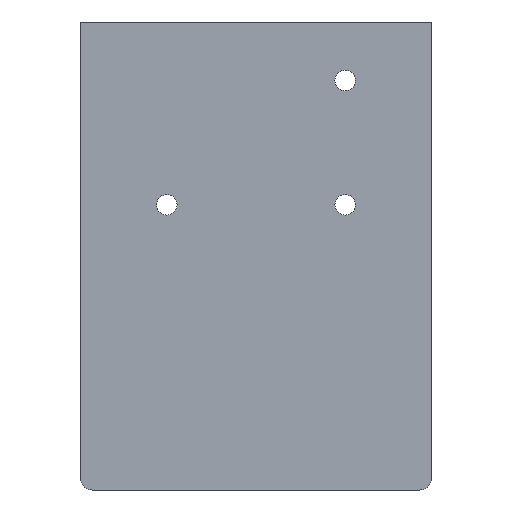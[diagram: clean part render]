
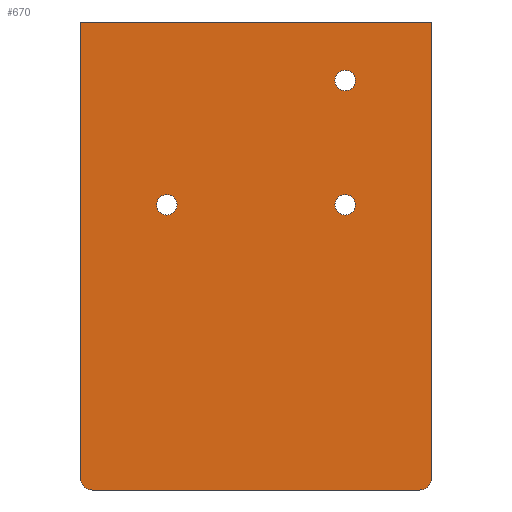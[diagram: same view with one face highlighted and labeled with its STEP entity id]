
A CAD part, front view. The second image highlights one B-rep face of the part: STEP entity #670.
In plain terms, the highlighted planar face has unit normal (0, -1, 0).
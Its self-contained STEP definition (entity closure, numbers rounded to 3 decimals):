
#26 = CARTESIAN_POINT ( 'NONE',  ( 60., 10., 27. ) ) ;
#42 = VERTEX_POINT ( 'NONE', #1947 ) ;
#48 = VERTEX_POINT ( 'NONE', #660 ) ;
#106 = ORIENTED_EDGE ( 'NONE', *, *, #1349, .F. ) ;
#175 = CARTESIAN_POINT ( 'NONE',  ( 2., 10., 25. ) ) ;
#187 = EDGE_CURVE ( 'NONE', #42, #1304, #479, .T. ) ;
#204 = DIRECTION ( 'NONE',  ( 0., 0., -1. ) ) ;
#212 = VERTEX_POINT ( 'NONE', #2340 ) ;
#216 = EDGE_CURVE ( 'NONE', #1020, #1396, #666, .T. ) ;
#226 = EDGE_LOOP ( 'NONE', ( #238, #1975 ) ) ;
#238 = ORIENTED_EDGE ( 'NONE', *, *, #2758, .F. ) ;
#256 = LINE ( 'NONE', #2701, #864 ) ;
#347 = VERTEX_POINT ( 'NONE', #616 ) ;
#351 = CIRCLE ( 'NONE', #2452, 1.75 ) ;
#403 = AXIS2_PLACEMENT_3D ( 'NONE', #1565, #902, #1992 ) ;
#405 = DIRECTION ( 'NONE',  ( 0., -1., 0. ) ) ;
#432 = ORIENTED_EDGE ( 'NONE', *, *, #1198, .F. ) ;
#479 = CIRCLE ( 'NONE', #1664, 1.75 ) ;
#562 = DIRECTION ( 'NONE',  ( 0., -1., 0. ) ) ;
#565 = DIRECTION ( 'NONE',  ( 0., 0., -1. ) ) ;
#578 = CARTESIAN_POINT ( 'NONE',  ( 0., 10., -25. ) ) ;
#596 = DIRECTION ( 'NONE',  ( 0., 0., 1. ) ) ;
#616 = CARTESIAN_POINT ( 'NONE',  ( 14.75, 10., 75.5 ) ) ;
#645 = DIRECTION ( 'NONE',  ( 0., 0., -1. ) ) ;
#660 = CARTESIAN_POINT ( 'NONE',  ( 60., 10., 105. ) ) ;
#666 = CIRCLE ( 'NONE', #1053, 2. ) ;
#670 = ADVANCED_FACE ( 'NONE', ( #2379, #754, #1253, #1491 ), #1445, .F. ) ;
#675 = CIRCLE ( 'NONE', #1059, 1.75 ) ;
#737 = CARTESIAN_POINT ( 'NONE',  ( 14.75, 10., 72. ) ) ;
#751 = VERTEX_POINT ( 'NONE', #2561 ) ;
#754 = FACE_BOUND ( 'NONE', #757, .T. ) ;
#757 = EDGE_LOOP ( 'NONE', ( #432, #1681 ) ) ;
#770 = DIRECTION ( 'NONE',  ( 0., 0., -1. ) ) ;
#771 = CIRCLE ( 'NONE', #2448, 1.75 ) ;
#784 = CARTESIAN_POINT ( 'NONE',  ( 45.25, 10., 95. ) ) ;
#828 = ORIENTED_EDGE ( 'NONE', *, *, #1202, .T. ) ;
#864 = VECTOR ( 'NONE', #645, 1000. ) ;
#902 = DIRECTION ( 'NONE',  ( 0., 1., 0. ) ) ;
#915 = AXIS2_PLACEMENT_3D ( 'NONE', #2687, #405, #204 ) ;
#923 = ORIENTED_EDGE ( 'NONE', *, *, #2387, .F. ) ;
#1020 = VERTEX_POINT ( 'NONE', #26 ) ;
#1023 = CARTESIAN_POINT ( 'NONE',  ( 58., 10., 27. ) ) ;
#1053 = AXIS2_PLACEMENT_3D ( 'NONE', #1023, #1206, #1707 ) ;
#1059 = AXIS2_PLACEMENT_3D ( 'NONE', #2866, #1933, #2832 ) ;
#1077 = ORIENTED_EDGE ( 'NONE', *, *, #1401, .T. ) ;
#1089 = CARTESIAN_POINT ( 'NONE',  ( 60., 10., 105. ) ) ;
#1192 = DIRECTION ( 'NONE',  ( 0., -1., 0. ) ) ;
#1198 = EDGE_CURVE ( 'NONE', #2756, #347, #675, .T. ) ;
#1202 = EDGE_CURVE ( 'NONE', #48, #751, #1974, .T. ) ;
#1206 = DIRECTION ( 'NONE',  ( 0., 1., 0. ) ) ;
#1252 = CARTESIAN_POINT ( 'NONE',  ( 14.75, 10., 73.75 ) ) ;
#1253 = FACE_BOUND ( 'NONE', #226, .T. ) ;
#1285 = VECTOR ( 'NONE', #1402, 1000. ) ;
#1304 = VERTEX_POINT ( 'NONE', #1420 ) ;
#1349 = EDGE_CURVE ( 'NONE', #2770, #1639, #2554, .T. ) ;
#1396 = VERTEX_POINT ( 'NONE', #1775 ) ;
#1401 = EDGE_CURVE ( 'NONE', #751, #1639, #256, .T. ) ;
#1402 = DIRECTION ( 'NONE',  ( -1., 0., 0. ) ) ;
#1406 = DIRECTION ( 'NONE',  ( 0., -1., 0. ) ) ;
#1420 = CARTESIAN_POINT ( 'NONE',  ( 45.25, 10., 93.25 ) ) ;
#1445 = PLANE ( 'NONE',  #2449 ) ;
#1454 = DIRECTION ( 'NONE',  ( 0., 0., -1. ) ) ;
#1491 = FACE_BOUND ( 'NONE', #2837, .T. ) ;
#1565 = CARTESIAN_POINT ( 'NONE',  ( 2., 10., 27. ) ) ;
#1622 = CARTESIAN_POINT ( 'NONE',  ( 45.25, 10., 75.5 ) ) ;
#1639 = VERTEX_POINT ( 'NONE', #2414 ) ;
#1664 = AXIS2_PLACEMENT_3D ( 'NONE', #784, #562, #1454 ) ;
#1681 = ORIENTED_EDGE ( 'NONE', *, *, #2049, .F. ) ;
#1707 = DIRECTION ( 'NONE',  ( 0., 0., -1. ) ) ;
#1766 = ORIENTED_EDGE ( 'NONE', *, *, #1908, .F. ) ;
#1775 = CARTESIAN_POINT ( 'NONE',  ( 58., 10., 25. ) ) ;
#1819 = LINE ( 'NONE', #1864, #1285 ) ;
#1864 = CARTESIAN_POINT ( 'NONE',  ( 100., 10., 25. ) ) ;
#1892 = VECTOR ( 'NONE', #596, 1000. ) ;
#1908 = EDGE_CURVE ( 'NONE', #1304, #42, #2551, .T. ) ;
#1916 = VERTEX_POINT ( 'NONE', #1622 ) ;
#1933 = DIRECTION ( 'NONE',  ( 0., -1., 0. ) ) ;
#1947 = CARTESIAN_POINT ( 'NONE',  ( 45.25, 10., 96.75 ) ) ;
#1974 = LINE ( 'NONE', #1089, #2888 ) ;
#1975 = ORIENTED_EDGE ( 'NONE', *, *, #2834, .F. ) ;
#1992 = DIRECTION ( 'NONE',  ( 0., 0., -1. ) ) ;
#2049 = EDGE_CURVE ( 'NONE', #347, #2756, #771, .T. ) ;
#2082 = ORIENTED_EDGE ( 'NONE', *, *, #187, .F. ) ;
#2137 = EDGE_LOOP ( 'NONE', ( #106, #923, #2779, #2773, #828, #1077 ) ) ;
#2145 = CARTESIAN_POINT ( 'NONE',  ( 60., 10., 25. ) ) ;
#2169 = AXIS2_PLACEMENT_3D ( 'NONE', #2781, #1192, #770 ) ;
#2199 = EDGE_CURVE ( 'NONE', #1020, #48, #2816, .T. ) ;
#2332 = DIRECTION ( 'NONE',  ( 0., 0., 1. ) ) ;
#2340 = CARTESIAN_POINT ( 'NONE',  ( 45.25, 10., 72. ) ) ;
#2367 = DIRECTION ( 'NONE',  ( 0., 1., 0. ) ) ;
#2379 = FACE_OUTER_BOUND ( 'NONE', #2137, .T. ) ;
#2387 = EDGE_CURVE ( 'NONE', #1396, #2770, #1819, .T. ) ;
#2414 = CARTESIAN_POINT ( 'NONE',  ( 0., 10., 27. ) ) ;
#2415 = CIRCLE ( 'NONE', #915, 1.75 ) ;
#2448 = AXIS2_PLACEMENT_3D ( 'NONE', #1252, #2562, #565 ) ;
#2449 = AXIS2_PLACEMENT_3D ( 'NONE', #578, #2367, #2332 ) ;
#2452 = AXIS2_PLACEMENT_3D ( 'NONE', #2709, #1406, #2475 ) ;
#2475 = DIRECTION ( 'NONE',  ( 0., 0., -1. ) ) ;
#2551 = CIRCLE ( 'NONE', #2169, 1.75 ) ;
#2554 = CIRCLE ( 'NONE', #403, 2. ) ;
#2561 = CARTESIAN_POINT ( 'NONE',  ( 0., 10., 105. ) ) ;
#2562 = DIRECTION ( 'NONE',  ( 0., -1., 0. ) ) ;
#2638 = DIRECTION ( 'NONE',  ( -1., 0., 0. ) ) ;
#2687 = CARTESIAN_POINT ( 'NONE',  ( 45.25, 10., 73.75 ) ) ;
#2701 = CARTESIAN_POINT ( 'NONE',  ( 0., 10., 25. ) ) ;
#2709 = CARTESIAN_POINT ( 'NONE',  ( 45.25, 10., 73.75 ) ) ;
#2756 = VERTEX_POINT ( 'NONE', #737 ) ;
#2758 = EDGE_CURVE ( 'NONE', #212, #1916, #351, .T. ) ;
#2770 = VERTEX_POINT ( 'NONE', #175 ) ;
#2773 = ORIENTED_EDGE ( 'NONE', *, *, #2199, .T. ) ;
#2779 = ORIENTED_EDGE ( 'NONE', *, *, #216, .F. ) ;
#2781 = CARTESIAN_POINT ( 'NONE',  ( 45.25, 10., 95. ) ) ;
#2816 = LINE ( 'NONE', #2145, #1892 ) ;
#2832 = DIRECTION ( 'NONE',  ( 0., 0., -1. ) ) ;
#2834 = EDGE_CURVE ( 'NONE', #1916, #212, #2415, .T. ) ;
#2837 = EDGE_LOOP ( 'NONE', ( #1766, #2082 ) ) ;
#2866 = CARTESIAN_POINT ( 'NONE',  ( 14.75, 10., 73.75 ) ) ;
#2888 = VECTOR ( 'NONE', #2638, 1000. ) ;
